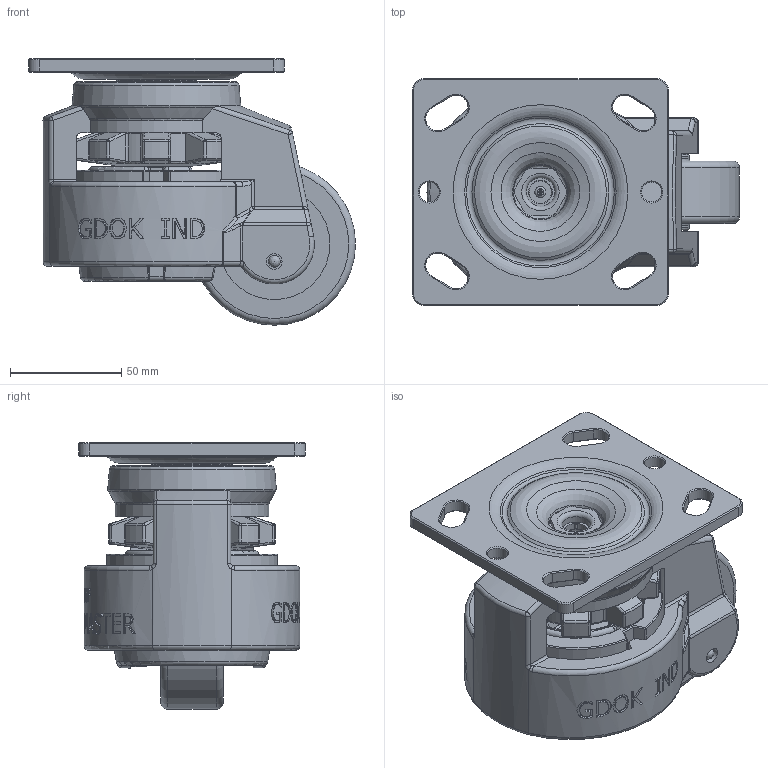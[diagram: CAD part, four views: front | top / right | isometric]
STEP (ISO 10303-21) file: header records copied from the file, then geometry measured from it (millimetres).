
FILE_DESCRIPTION(/* description */ (''),/* implementation_level */ '2;1');
FILE_NAME(/* name */ 'C:\Users\황치선\Desktop\GD-\X2\C218C815BCF8\X0\\GD-100-3D\1\2.stp',/* time_stamp */ '2015-07-08T17:56:48+09:00',/* author */ ('황치선'),/* organization */ (''),/* preprocessor_version */ 'ST-DEVELOPER v15.6',/* originating_system */ 'Autodesk Inventor 2015',/* authorisation */ '');
FILE_SCHEMA (('AUTOMOTIVE_DESIGN { 1 0 10303 214 3 1 1 }'));
Length unit declared in the file: centimetre
Products named in the file (1): 2
Bounding box: 147 x 102 x 119.76 mm (x, y, z)
Volume: 621533.9 mm3; surface area: 149973.8 mm2
Topology: 5 solids, 5 shells, 1614 faces, 4143 edges, 2545 vertices
Faces by surface type: plane 493, bspline 461, cylinder 300, cone 168, torus 138, sphere 54
Full cylindrical faces by diameter (mm): 1 x2, 3 x3, 5 x1, 7 x2, 8.6 x1, 8.8 x1, 9 x2, 10 x1, 10.6 x1, 10.7 x1, 12 x3, 12.8 x1, 20 x2, 25 x1, 27 x1, 28 x2, 30 x1, 41.6 x1, 42.6 x1, 42.7 x1, 43 x1, 50 x2, 73 x1
Entity records: 116948 total; most frequent: CARTESIAN_POINT 78923, ORIENTED_EDGE 7864, DIRECTION 7163, EDGE_CURVE 3932, AXIS2_PLACEMENT_3D 2939, VERTEX_POINT 2497, EDGE_LOOP 1811, STYLED_ITEM 1619
